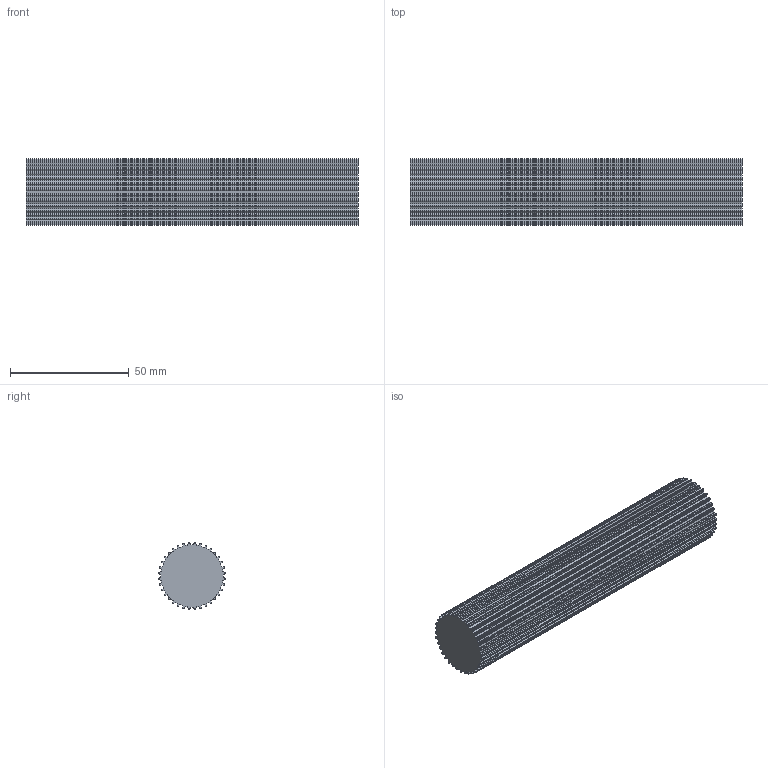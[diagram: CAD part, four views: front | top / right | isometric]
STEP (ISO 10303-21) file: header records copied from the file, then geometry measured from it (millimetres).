
FILE_DESCRIPTION( ( 'STEP AP214' ), '1' );
FILE_NAME( 'C:/Users/StangenbergN/Documents/CAD_Step/1/16093600.stp', '2019-07-25T19:42:01', ( '' ), ( '' ), ' ', 'PARTsolutions', ' ' );
FILE_SCHEMA( ( 'AUTOMOTIVE_DESIGN { 1 0 10303 214 1 1 1 1 }' ) );
Length unit declared in the file: millimetre
Products named in the file (1): _16093600
Bounding box: 140 x 28.06 x 28.06 mm (x, y, z)
Volume: 79663.2 mm3; surface area: 19342.6 mm2
Topology: 1 solids, 1 shells, 290 faces, 864 edges, 576 vertices
Faces by surface type: cylinder 180, plane 110
Entity records: 12224 total; most frequent: DIRECTION 1806, CARTESIAN_POINT 1731, ORIENTED_EDGE 1728, EDGE_CURVE 864, AXIS2_PLACEMENT_3D 651, VERTEX_POINT 576, LINE 504, VECTOR 504
